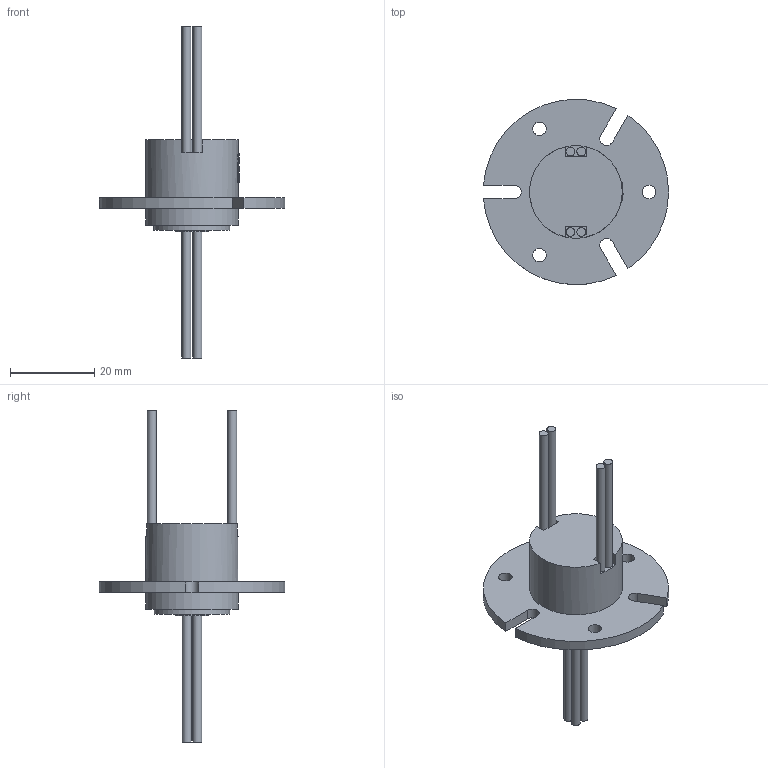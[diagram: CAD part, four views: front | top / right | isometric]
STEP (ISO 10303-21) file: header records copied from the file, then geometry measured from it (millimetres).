
FILE_DESCRIPTION(/* description */ (''),/* implementation_level */ '2;1');
FILE_NAME(/* name */ 'HM022-0415.stp',/* time_stamp */ '2025-09-22T18:33:23+08:00',/* author */ (''),/* organization */ (''),/* preprocessor_version */ 'ST-DEVELOPER v16.7',/* originating_system */ 'SIEMENS PLM Software NX 12.0',/* authorisation */ '');
FILE_SCHEMA (('AUTOMOTIVE_DESIGN { 1 0 10303 214 3 1 1 1 }'));
Length unit declared in the file: millimetre
Products named in the file (1): Admi33B4A770ys9g
Bounding box: 43.94 x 43.97 x 78.8 mm (x, y, z)
Volume: 11374.6 mm3; surface area: 6318 mm2
Topology: 1 solids, 1 shells, 578 faces, 1586 edges, 1059 vertices
Faces by surface type: extrusion 311, plane 209, cylinder 32, bspline 26
Full cylindrical faces by diameter (mm): 2.1 x8, 3.2 x3, 7.8 x1, 18 x1, 22 x2
Entity records: 23931 total; most frequent: CARTESIAN_POINT 11656, ORIENTED_EDGE 3130, EDGE_CURVE 1565, B_SPLINE_CURVE_WITH_KNOTS 1557, DIRECTION 1291, VERTEX_POINT 1053, EDGE_LOOP 648, ADVANCED_FACE 578
